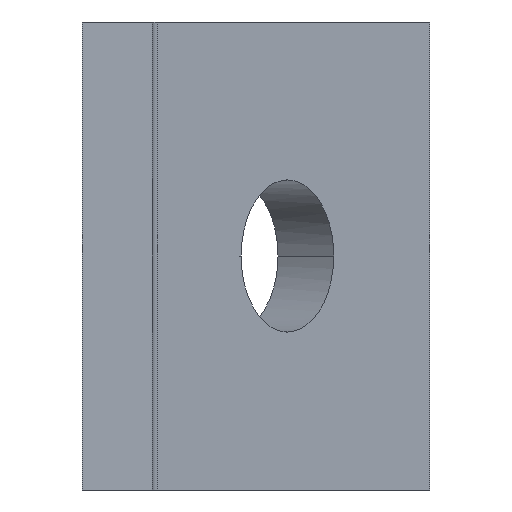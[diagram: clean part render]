
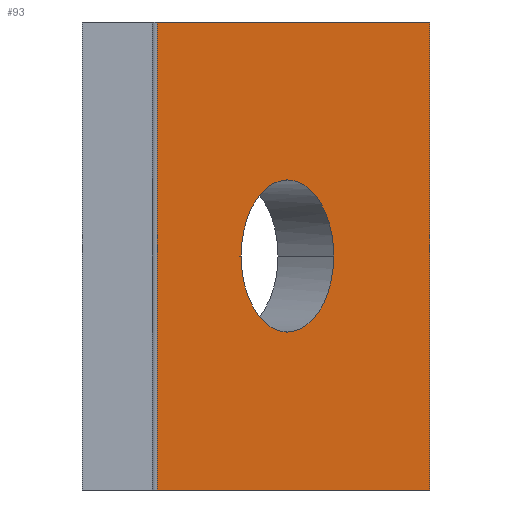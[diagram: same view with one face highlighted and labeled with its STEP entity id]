
A CAD part, left-side view. The second image highlights one B-rep face of the part: STEP entity #93.
In plain terms, the highlighted planar face has unit normal (-0.609, -0.793, 0).
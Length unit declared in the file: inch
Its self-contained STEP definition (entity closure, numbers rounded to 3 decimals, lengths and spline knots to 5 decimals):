
#93=ADVANCED_FACE('',(#229,#230),#231,.T.);
#113=EDGE_CURVE('',#248,#262,#263,.T.);
#117=EDGE_CURVE('',#268,#233,#269,.T.);
#121=EDGE_CURVE('',#274,#275,#276,.T.);
#141=EDGE_CURVE('',#248,#274,#303,.T.);
#145=EDGE_CURVE('',#290,#255,#308,.T.);
#153=EDGE_CURVE('',#262,#275,#319,.T.);
#157=EDGE_CURVE('',#255,#268,#323,.T.);
#185=EDGE_CURVE('',#233,#290,#357,.T.);
#229=FACE_BOUND('',#439,.T.);
#230=FACE_OUTER_BOUND('',#440,.T.);
#231=PLANE('',#441);
#233=VERTEX_POINT('',#444);
#248=VERTEX_POINT('',#468);
#255=VERTEX_POINT('',#477);
#262=VERTEX_POINT('',#488);
#263=LINE('',#489,#490);
#268=VERTEX_POINT('',#503);
#269=B_SPLINE_CURVE_WITH_KNOTS('',3,(#504,#505,#506,#507),.UNSPECIFIED.,.F.,.F.,(4,4),(-1.0,-0.0),.UNSPECIFIED.);
#274=VERTEX_POINT('',#515);
#275=VERTEX_POINT('',#516);
#276=LINE('',#517,#518);
#290=VERTEX_POINT('',#545);
#303=LINE('',#588,#589);
#308=B_SPLINE_CURVE_WITH_KNOTS('',3,(#602,#603,#604,#605),.UNSPECIFIED.,.F.,.F.,(4,4),(-1.0,-0.0),.UNSPECIFIED.);
#319=LINE('',#620,#621);
#323=B_SPLINE_CURVE_WITH_KNOTS('',3,(#627,#628,#629,#630),.UNSPECIFIED.,.F.,.F.,(4,4),(-1.0,-0.0),.UNSPECIFIED.);
#357=B_SPLINE_CURVE_WITH_KNOTS('',3,(#701,#702,#703,#704),.UNSPECIFIED.,.F.,.F.,(4,4),(-1.0,-0.0),.UNSPECIFIED.);
#439=EDGE_LOOP('',(#735,#736,#737,#738));
#440=EDGE_LOOP('',(#739,#740,#741,#742));
#441=AXIS2_PLACEMENT_3D('',#743,#744,#745);
#444=CARTESIAN_POINT('',(1.844,-0.36076,0.42188));
#468=CARTESIAN_POINT('',(2.33984,-0.74124,0.0));
#477=CARTESIAN_POINT('',(1.844,-0.36076,0.82813));
#488=CARTESIAN_POINT('',(2.33984,-0.74124,1.25));
#489=CARTESIAN_POINT('',(2.33984,-0.74124,0.0));
#490=VECTOR('',#778,1.0);
#503=CARTESIAN_POINT('',(2.00515,-0.48441,0.625));
#504=CARTESIAN_POINT('',(2.00515,-0.48441,0.625));
#505=CARTESIAN_POINT('',(2.00515,-0.48441,0.51282));
#506=CARTESIAN_POINT('',(1.933,-0.42905,0.42188));
#507=CARTESIAN_POINT('',(1.844,-0.36076,0.42188));
#515=CARTESIAN_POINT('',(1.39068,-0.01292,0.0));
#516=CARTESIAN_POINT('',(1.39068,-0.01292,1.25));
#517=CARTESIAN_POINT('',(1.39068,-0.01292,0.0));
#518=VECTOR('',#785,1.0);
#545=CARTESIAN_POINT('',(1.68285,-0.2371,0.625));
#588=CARTESIAN_POINT('',(2.33984,-0.74124,0.0));
#589=VECTOR('',#816,1.);
#602=CARTESIAN_POINT('',(1.68285,-0.2371,0.625));
#603=CARTESIAN_POINT('',(1.68285,-0.2371,0.73718));
#604=CARTESIAN_POINT('',(1.755,-0.29247,0.82813));
#605=CARTESIAN_POINT('',(1.844,-0.36076,0.82813));
#620=CARTESIAN_POINT('',(2.33984,-0.74124,1.25));
#621=VECTOR('',#838,1.);
#627=CARTESIAN_POINT('',(1.844,-0.36076,0.82813));
#628=CARTESIAN_POINT('',(1.933,-0.42905,0.82813));
#629=CARTESIAN_POINT('',(2.00515,-0.48441,0.73718));
#630=CARTESIAN_POINT('',(2.00515,-0.48441,0.625));
#701=CARTESIAN_POINT('',(1.844,-0.36076,0.42188));
#702=CARTESIAN_POINT('',(1.755,-0.29247,0.42188));
#703=CARTESIAN_POINT('',(1.68285,-0.2371,0.51282));
#704=CARTESIAN_POINT('',(1.68285,-0.2371,0.625));
#735=ORIENTED_EDGE('',*,*,#157,.T.);
#736=ORIENTED_EDGE('',*,*,#117,.T.);
#737=ORIENTED_EDGE('',*,*,#185,.T.);
#738=ORIENTED_EDGE('',*,*,#145,.T.);
#739=ORIENTED_EDGE('',*,*,#153,.T.);
#740=ORIENTED_EDGE('',*,*,#121,.F.);
#741=ORIENTED_EDGE('',*,*,#141,.F.);
#742=ORIENTED_EDGE('',*,*,#113,.T.);
#743=CARTESIAN_POINT('',(1.86526,-0.37708,0.0));
#744=DIRECTION('',(-0.609,-0.793,0.0));
#745=DIRECTION('',(0.793,-0.609,-0.0));
#778=DIRECTION('',(0.0,0.0,1.0));
#785=DIRECTION('',(0.0,0.0,1.0));
#816=DIRECTION('',(-0.793,0.609,0.0));
#838=DIRECTION('',(-0.793,0.609,0.0));
